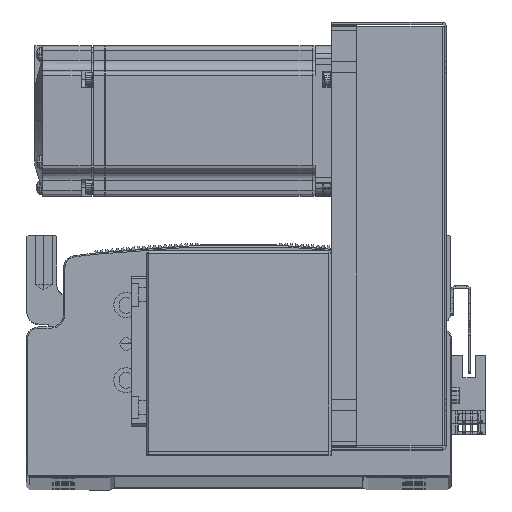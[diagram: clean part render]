
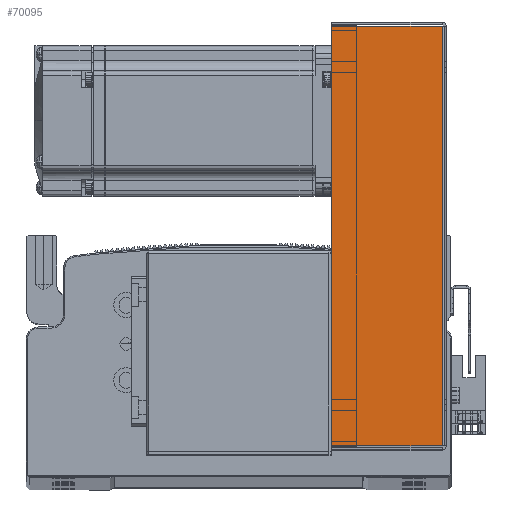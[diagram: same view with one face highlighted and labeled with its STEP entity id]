
A CAD part, top view. The second image highlights one B-rep face of the part: STEP entity #70095.
In plain terms, the highlighted planar face has unit normal (0, 0, 1).
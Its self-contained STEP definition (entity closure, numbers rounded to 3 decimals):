
#17246 = ORIENTED_EDGE ( 'NONE', *, *, #73985, .T. ) ;
#17278 = ORIENTED_EDGE ( 'NONE', *, *, #73935, .T. ) ;
#17314 = ORIENTED_EDGE ( 'NONE', *, *, #73941, .F. ) ;
#17357 = ORIENTED_EDGE ( 'NONE', *, *, #73889, .F. ) ;
#27290 = AXIS2_PLACEMENT_3D ( 'NONE', #63340, #63339, #63365 ) ;
#41866 = CARTESIAN_POINT ( 'NONE',  ( -83.793, 0., 40.5 ) ) ;
#41999 = DIRECTION ( 'NONE',  ( 0., 1., 0. ) ) ;
#42171 = CARTESIAN_POINT ( 'NONE',  ( 83.793, 0., 40.5 ) ) ;
#42249 = DIRECTION ( 'NONE',  ( 0., 1., 0. ) ) ;
#42329 = DIRECTION ( 'NONE',  ( -1., 0., 0. ) ) ;
#42360 = CARTESIAN_POINT ( 'NONE',  ( 0., 0.737, 40.5 ) ) ;
#42568 = CARTESIAN_POINT ( 'NONE',  ( -84.5, 45., 40.5 ) ) ;
#42654 = DIRECTION ( 'NONE',  ( -1., 0., 0. ) ) ;
#44744 = LINE ( 'NONE', #41866, #44846 ) ;
#44846 = VECTOR ( 'NONE', #41999, 1000. ) ;
#44906 = VECTOR ( 'NONE', #42249, 1000. ) ;
#44949 = LINE ( 'NONE', #42171, #44906 ) ;
#44964 = VECTOR ( 'NONE', #42329, 1000. ) ;
#44984 = LINE ( 'NONE', #42360, #44964 ) ;
#45137 = VECTOR ( 'NONE', #42654, 1000. ) ;
#45210 = LINE ( 'NONE', #42568, #45137 ) ;
#52760 = VERTEX_POINT ( 'NONE', #95005 ) ;
#52766 = VERTEX_POINT ( 'NONE', #95152 ) ;
#52771 = VERTEX_POINT ( 'NONE', #95145 ) ;
#52784 = VERTEX_POINT ( 'NONE', #95162 ) ;
#63339 = DIRECTION ( 'NONE',  ( 0., 0., -1. ) ) ;
#63340 = CARTESIAN_POINT ( 'NONE',  ( 0., 0., 40.5 ) ) ;
#63356 = PLANE ( 'NONE',  #27290 ) ;
#63365 = DIRECTION ( 'NONE',  ( -1., 0., 0. ) ) ;
#67852 = FACE_OUTER_BOUND ( 'NONE', #71778, .T. ) ;
#70095 = ADVANCED_FACE ( 'NONE', ( #67852 ), #63356, .F. ) ;
#71778 = EDGE_LOOP ( 'NONE', ( #17314, #17278, #17246, #17357 ) ) ;
#73889 = EDGE_CURVE ( 'NONE', #52760, #52784, #44744, .T. ) ;
#73935 = EDGE_CURVE ( 'NONE', #52766, #52771, #44949, .T. ) ;
#73941 = EDGE_CURVE ( 'NONE', #52766, #52760, #44984, .T. ) ;
#73985 = EDGE_CURVE ( 'NONE', #52771, #52784, #45210, .T. ) ;
#95005 = CARTESIAN_POINT ( 'NONE',  ( -83.793, 0.737, 40.5 ) ) ;
#95145 = CARTESIAN_POINT ( 'NONE',  ( 83.793, 45., 40.5 ) ) ;
#95152 = CARTESIAN_POINT ( 'NONE',  ( 83.793, 0.737, 40.5 ) ) ;
#95162 = CARTESIAN_POINT ( 'NONE',  ( -83.793, 45., 40.5 ) ) ;
